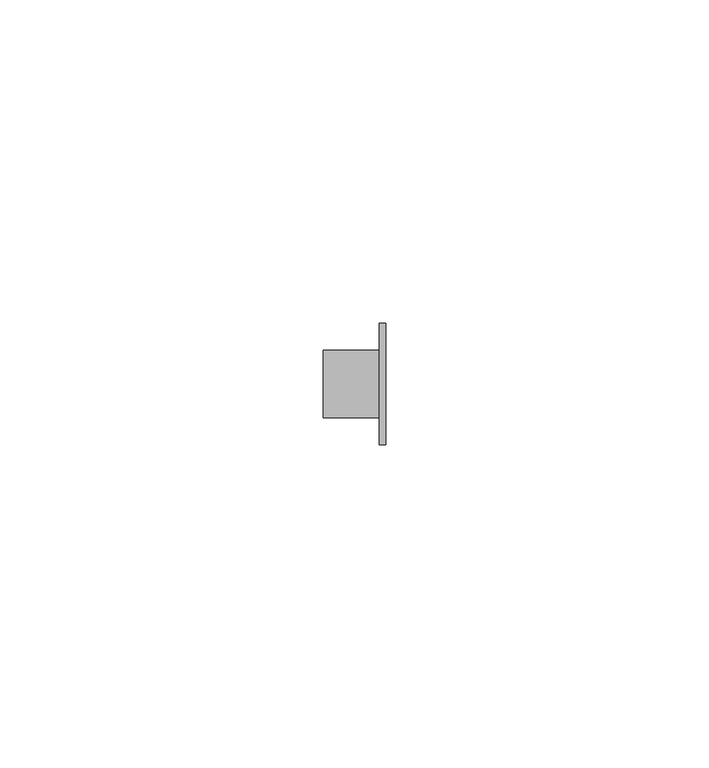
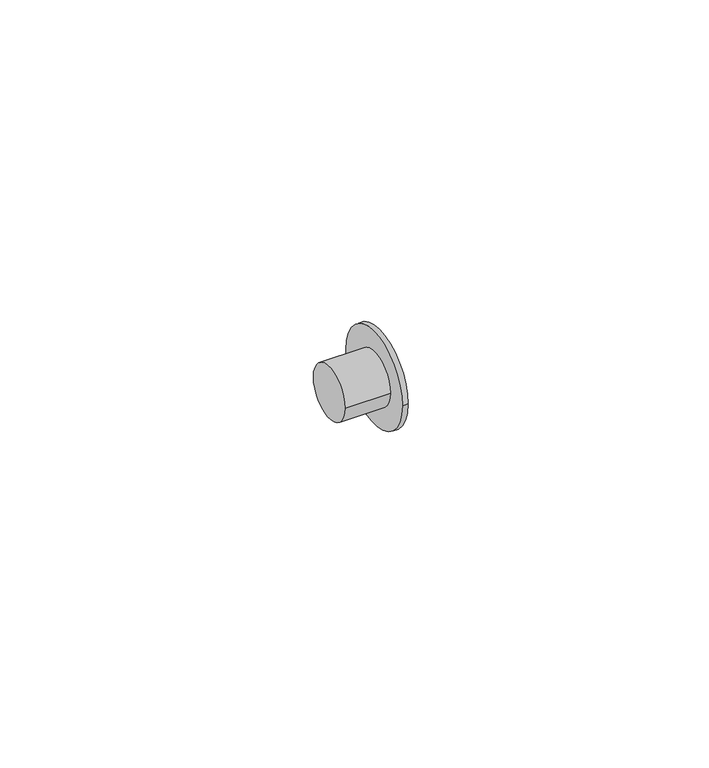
"""IFC4 building model written with IfcOpenShell, lengths in millimetres: pipe fitting geometry, Bucha de redução reta - Soldada - CU : Padrão."""

from ifc_helpers import new_model, si_unit, frame, origin, place, context, project, spatial, circle_curve, source, transform, mapped, element, save
from ifc_brep_helpers import plane_surface, cylinder_surface, advanced_brep


def pipe_fitting_feadc871(model_context):
    return source(origin(), model_context, "Body", "AdvancedBrep", [
        advanced_brep(
        [(0.0, -5.2552, 0.0), (0.0, 5.2552, 0.0), (8.6744, -5.2552, 0.0), (8.6744, 5.2552, 0.0), (9.6744, -9.425, 0.0), (9.6744, 9.425, 0.0), (8.6744, 9.425, 0.0), (8.6744, -9.425, 0.0)],
        [
            (0, 1, circle_curve(frame((0.0, 0.0, 0.0), z_axis=(-1.0, 0.0, 0.0), x_axis=(0.0, 1.0, 0.0)), 5.2552)),
            (1, 0, circle_curve(frame((0.0, 0.0, 0.0), z_axis=(-1.0, 0.0, 0.0), x_axis=(0.0, 1.0, 0.0)), 5.2552)),
            (0, 2),
            (2, 3, circle_curve(frame((8.6744, 0.0, 0.0), z_axis=(-1.0, 0.0, 0.0), x_axis=(0.0, 1.0, 0.0)), 5.2552)),
            (3, 1),
            (3, 2, circle_curve(frame((8.6744, 0.0, 0.0), z_axis=(-1.0, 0.0, 0.0), x_axis=(0.0, 1.0, 0.0)), 5.2552)),
            (4, 5, circle_curve(frame((9.6744, 0.0, 0.0), z_axis=(1.0, 0.0, 0.0), x_axis=(0.0, 1.0, 0.0)), 9.425)),
            (5, 4, circle_curve(frame((9.6744, 0.0, 0.0), z_axis=(1.0, 0.0, 0.0), x_axis=(0.0, 1.0, 0.0)), 9.425)),
            (6, 7, circle_curve(frame((8.6744, 0.0, 0.0), z_axis=(1.0, 0.0, 0.0), x_axis=(0.0, 1.0, 0.0)), 9.425)),
            (7, 4),
            (5, 6),
            (7, 6, circle_curve(frame((8.6744, 0.0, 0.0), z_axis=(1.0, 0.0, 0.0), x_axis=(0.0, 1.0, 0.0)), 9.425)),
        ],
        [
            plane_surface(frame((0.0, 0.0, 0.0), z_axis=(-1.0, 0.0, 0.0), x_axis=(0.0, 0.0, 1.0))),
            cylinder_surface(frame((0.0, 0.0, 0.0), z_axis=(-1.0, 0.0, 0.0), x_axis=(0.0, 1.0, 0.0)), 5.2552),
            plane_surface(frame((9.6744, 0.0, 0.0), z_axis=(1.0, 0.0, 0.0), x_axis=(0.0, 0.0, 1.0))),
            cylinder_surface(frame((8.6744, 0.0, 0.0), z_axis=(-1.0, 0.0, 0.0), x_axis=(0.0, 1.0, 0.0)), 9.425),
            plane_surface(frame((8.6744, 0.0, 0.0), z_axis=(-1.0, 0.0, 0.0), x_axis=(0.0, 0.0, 1.0))),
        ],
        [
            (0, [[1, 2]]),
            (1, [[-1, 3, 4, 5]]),
            (1, [[-2, -5, 6, -3]]),
            (2, [[7, 8]]),
            (3, [[9, 10, -8, 11]]),
            (3, [[12, -11, -7, -10]]),
            (4, [[-9, -12], [-4, -6]]),
        ],
    ),
    ])


if __name__ == "__main__":
    model = new_model("IFC4")
    model_context = context("Model", 3, world=origin())
    ifc_project = project(units=[si_unit("LENGTHUNIT", "METRE", prefix="MILLI")], contexts=[model_context])
    site = spatial("IfcSite", under=ifc_project)
    building = spatial("IfcBuilding", under=site)
    placement = place(None, origin())
    pipe_fitting_shape = pipe_fitting_feadc871(model_context)
    element("IfcPipeFitting", 1, ObjectType="Bucha de redução reta - Soldada - CU : Padrão", at=placement, inside=building, context=model_context, shape_type="MappedRepresentation", body=[
        mapped(pipe_fitting_shape, transform((0.0, 0.0, 0.0), x_axis=(1.0, 0.0, 0.0), y_axis=(0.0, 1.0, 0.0), z_axis=(0.0, 0.0, 1.0))),
    ])
    save(model, "model.ifc")
